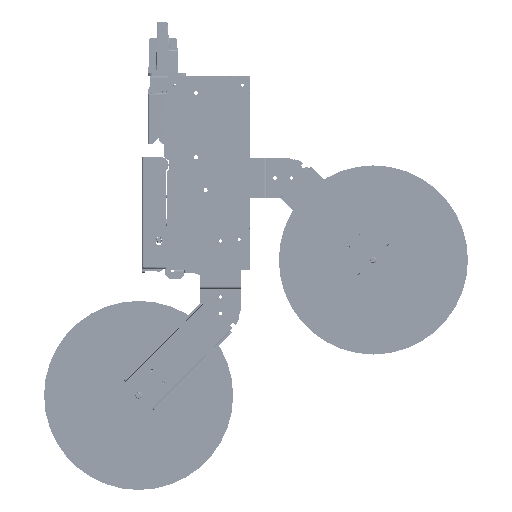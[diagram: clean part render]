
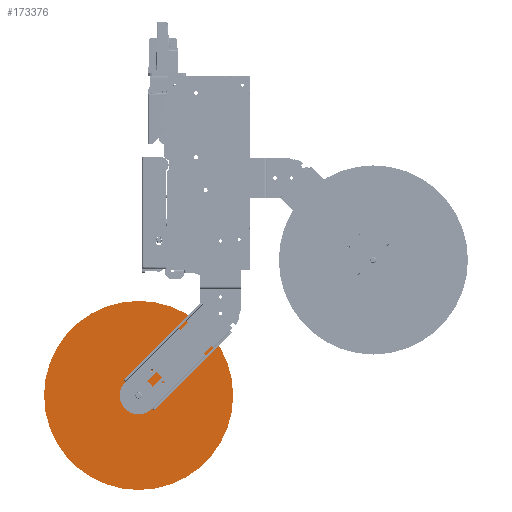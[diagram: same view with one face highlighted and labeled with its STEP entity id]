
A CAD part, left-side view. The second image highlights one B-rep face of the part: STEP entity #173376.
In plain terms, the highlighted planar face has unit normal (-1, 0, 0).
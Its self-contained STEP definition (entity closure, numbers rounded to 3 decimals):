
#173271=CARTESIAN_POINT('',(-40.,70.1,-100.9));
#173272=DIRECTION('',(-1.,0.,0.));
#173273=DIRECTION('',(0.,-1.,0.));
#173274=AXIS2_PLACEMENT_3D('',#173271,#173272,#173273);
#173276=CARTESIAN_POINT('',(-40.,70.1,-100.9));
#173277=DIRECTION('',(-1.,0.,0.));
#173278=DIRECTION('',(0.,1.,0.));
#173279=AXIS2_PLACEMENT_3D('',#173276,#173277,#173278);
#173281=CARTESIAN_POINT('',(-40.,70.1,-100.9));
#173282=DIRECTION('',(1.,0.,0.));
#173283=DIRECTION('',(0.,-1.,0.));
#173284=AXIS2_PLACEMENT_3D('',#173281,#173282,#173283);
#173286=CARTESIAN_POINT('',(-40.,70.1,-100.9));
#173287=DIRECTION('',(1.,0.,0.));
#173288=DIRECTION('',(0.,1.,0.));
#173289=AXIS2_PLACEMENT_3D('',#173286,#173287,#173288);
#173299=CARTESIAN_POINT('',(-40.,-4.9,-100.9));
#173301=VERTEX_POINT('',#173299);
#173304=CARTESIAN_POINT('',(-40.,145.1,-100.9));
#173306=VERTEX_POINT('',#173304);
#173307=CARTESIAN_POINT('',(-40.,83.1,-100.9));
#173309=VERTEX_POINT('',#173307);
#173312=CARTESIAN_POINT('',(-40.,57.1,-100.9));
#173314=VERTEX_POINT('',#173312);
#173361=CARTESIAN_POINT('',(-40.,70.1,-100.9));
#173362=DIRECTION('',(1.,0.,0.));
#173363=DIRECTION('',(0.,-1.,0.));
#173364=AXIS2_PLACEMENT_3D('',#173361,#173362,#173363);
#173365=PLANE('',#173364);
#173366=ORIENTED_EDGE('',*,*,#173341,.F.);
#173367=ORIENTED_EDGE('',*,*,#173355,.F.);
#173368=EDGE_LOOP('',(#173366,#173367));
#173369=FACE_OUTER_BOUND('',#173368,.F.);
#173371=ORIENTED_EDGE('',*,*,#173370,.F.);
#173373=ORIENTED_EDGE('',*,*,#173372,.F.);
#173374=EDGE_LOOP('',(#173371,#173373));
#173375=FACE_BOUND('',#173374,.F.);
#173275=CIRCLE('',#173274,75.);
#173280=CIRCLE('',#173279,75.);
#173285=CIRCLE('',#173284,13.);
#173290=CIRCLE('',#173289,13.);
#173341=EDGE_CURVE('',#173301,#173306,#173275,.T.);
#173355=EDGE_CURVE('',#173306,#173301,#173280,.T.);
#173370=EDGE_CURVE('',#173314,#173309,#173285,.T.);
#173372=EDGE_CURVE('',#173309,#173314,#173290,.T.);
#173376=ADVANCED_FACE('',(#173369,#173375),#173365,.F.);
